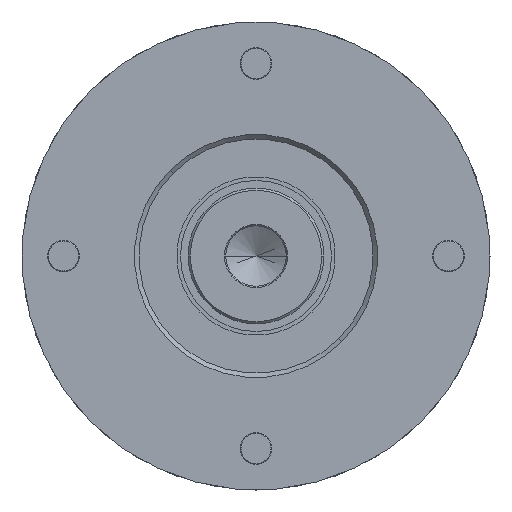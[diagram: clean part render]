
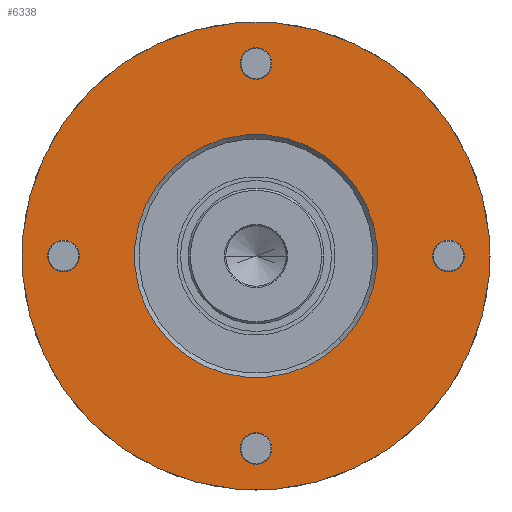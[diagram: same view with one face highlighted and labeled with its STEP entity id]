
A CAD part, left-side view. The second image highlights one B-rep face of the part: STEP entity #6338.
In plain terms, the highlighted planar face has unit normal (-1, 0, 0).
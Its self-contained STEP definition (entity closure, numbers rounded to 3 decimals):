
#5647=CARTESIAN_POINT('',(0.,0.,0.));
#5648=DIRECTION('',(-1.,0.,0.));
#5649=DIRECTION('',(0.,1.,0.));
#5650=AXIS2_PLACEMENT_3D('',#5647,#5648,#5649);
#5655=CARTESIAN_POINT('',(0.,0.,0.));
#5656=DIRECTION('',(1.,0.,0.));
#5657=DIRECTION('',(0.,1.,0.));
#5658=AXIS2_PLACEMENT_3D('',#5655,#5656,#5657);
#5663=CARTESIAN_POINT('',(0.,0.,0.));
#5664=DIRECTION('',(-1.,0.,0.));
#5665=DIRECTION('',(0.,-1.,0.));
#5666=AXIS2_PLACEMENT_3D('',#5663,#5664,#5665);
#5671=CARTESIAN_POINT('',(0.,0.,0.));
#5672=DIRECTION('',(-1.,0.,0.));
#5673=DIRECTION('',(0.,1.,0.));
#5674=AXIS2_PLACEMENT_3D('',#5671,#5672,#5673);
#5679=CARTESIAN_POINT('',(0.,18.031,-18.031));
#5680=DIRECTION('',(1.,0.,0.));
#5681=DIRECTION('',(0.,-1.,0.));
#5682=AXIS2_PLACEMENT_3D('',#5679,#5680,#5681);
#5687=CARTESIAN_POINT('',(0.,18.031,-18.031));
#5688=DIRECTION('',(1.,0.,0.));
#5689=DIRECTION('',(0.,1.,0.));
#5690=AXIS2_PLACEMENT_3D('',#5687,#5688,#5689);
#5695=CARTESIAN_POINT('',(0.,18.031,18.031));
#5696=DIRECTION('',(1.,0.,0.));
#5697=DIRECTION('',(0.,-1.,0.));
#5698=AXIS2_PLACEMENT_3D('',#5695,#5696,#5697);
#5703=CARTESIAN_POINT('',(0.,18.031,18.031));
#5704=DIRECTION('',(1.,0.,0.));
#5705=DIRECTION('',(0.,1.,0.));
#5706=AXIS2_PLACEMENT_3D('',#5703,#5704,#5705);
#5711=CARTESIAN_POINT('',(0.,-18.031,18.031));
#5712=DIRECTION('',(1.,0.,0.));
#5713=DIRECTION('',(0.,-1.,0.));
#5714=AXIS2_PLACEMENT_3D('',#5711,#5712,#5713);
#5719=CARTESIAN_POINT('',(0.,-18.031,18.031));
#5720=DIRECTION('',(1.,0.,0.));
#5721=DIRECTION('',(0.,1.,0.));
#5722=AXIS2_PLACEMENT_3D('',#5719,#5720,#5721);
#5727=CARTESIAN_POINT('',(0.,-18.031,-18.031));
#5728=DIRECTION('',(1.,0.,0.));
#5729=DIRECTION('',(0.,-1.,0.));
#5730=AXIS2_PLACEMENT_3D('',#5727,#5728,#5729);
#5735=CARTESIAN_POINT('',(0.,-18.031,-18.031));
#5736=DIRECTION('',(1.,0.,0.));
#5737=DIRECTION('',(0.,1.,0.));
#5738=AXIS2_PLACEMENT_3D('',#5735,#5736,#5737);
#5943=CARTESIAN_POINT('',(0.,15.931,-18.031));
#5944=CARTESIAN_POINT('',(0.,20.131,-18.031));
#5945=VERTEX_POINT('',#5943);
#5946=VERTEX_POINT('',#5944);
#5947=CARTESIAN_POINT('',(0.,15.931,18.031));
#5948=CARTESIAN_POINT('',(0.,20.131,18.031));
#5949=VERTEX_POINT('',#5947);
#5950=VERTEX_POINT('',#5948);
#5951=CARTESIAN_POINT('',(0.,-20.131,18.031));
#5952=CARTESIAN_POINT('',(0.,-15.931,18.031));
#5953=VERTEX_POINT('',#5951);
#5954=VERTEX_POINT('',#5952);
#5955=CARTESIAN_POINT('',(0.,-20.131,-18.031));
#5956=CARTESIAN_POINT('',(0.,-15.931,-18.031));
#5957=VERTEX_POINT('',#5955);
#5958=VERTEX_POINT('',#5956);
#5959=CARTESIAN_POINT('',(0.,31.,0.));
#5960=CARTESIAN_POINT('',(0.,-31.,0.));
#5961=VERTEX_POINT('',#5959);
#5962=VERTEX_POINT('',#5960);
#5971=CARTESIAN_POINT('',(0.,-16.1,0.));
#5972=CARTESIAN_POINT('',(0.,16.1,0.));
#5973=VERTEX_POINT('',#5971);
#5974=VERTEX_POINT('',#5972);
#6301=CARTESIAN_POINT('',(0.,0.,0.));
#6302=DIRECTION('',(1.,0.,0.));
#6303=DIRECTION('',(0.,-1.,0.));
#6304=AXIS2_PLACEMENT_3D('',#6301,#6302,#6303);
#6305=PLANE('',#6304);
#6306=ORIENTED_EDGE('',*,*,#6268,.F.);
#6307=ORIENTED_EDGE('',*,*,#6283,.T.);
#6308=EDGE_LOOP('',(#6306,#6307));
#6309=FACE_OUTER_BOUND('',#6308,.F.);
#6310=ORIENTED_EDGE('',*,*,#6039,.T.);
#6311=ORIENTED_EDGE('',*,*,#6054,.T.);
#6312=EDGE_LOOP('',(#6310,#6311));
#6313=FACE_BOUND('',#6312,.F.);
#6315=ORIENTED_EDGE('',*,*,#6314,.F.);
#6317=ORIENTED_EDGE('',*,*,#6316,.F.);
#6318=EDGE_LOOP('',(#6315,#6317));
#6319=FACE_BOUND('',#6318,.F.);
#6321=ORIENTED_EDGE('',*,*,#6320,.F.);
#6323=ORIENTED_EDGE('',*,*,#6322,.F.);
#6324=EDGE_LOOP('',(#6321,#6323));
#6325=FACE_BOUND('',#6324,.F.);
#6327=ORIENTED_EDGE('',*,*,#6326,.F.);
#6329=ORIENTED_EDGE('',*,*,#6328,.F.);
#6330=EDGE_LOOP('',(#6327,#6329));
#6331=FACE_BOUND('',#6330,.F.);
#6333=ORIENTED_EDGE('',*,*,#6332,.F.);
#6335=ORIENTED_EDGE('',*,*,#6334,.F.);
#6336=EDGE_LOOP('',(#6333,#6335));
#6337=FACE_BOUND('',#6336,.F.);
#5651=CIRCLE('',#5650,31.);
#5659=CIRCLE('',#5658,31.);
#5667=CIRCLE('',#5666,16.1);
#5675=CIRCLE('',#5674,16.1);
#5683=CIRCLE('',#5682,2.1);
#5691=CIRCLE('',#5690,2.1);
#5699=CIRCLE('',#5698,2.1);
#5707=CIRCLE('',#5706,2.1);
#5715=CIRCLE('',#5714,2.1);
#5723=CIRCLE('',#5722,2.1);
#5731=CIRCLE('',#5730,2.1);
#5739=CIRCLE('',#5738,2.1);
#6039=EDGE_CURVE('',#5973,#5974,#5667,.T.);
#6054=EDGE_CURVE('',#5974,#5973,#5675,.T.);
#6268=EDGE_CURVE('',#5961,#5962,#5651,.T.);
#6283=EDGE_CURVE('',#5961,#5962,#5659,.T.);
#6314=EDGE_CURVE('',#5945,#5946,#5683,.T.);
#6316=EDGE_CURVE('',#5946,#5945,#5691,.T.);
#6320=EDGE_CURVE('',#5949,#5950,#5699,.T.);
#6322=EDGE_CURVE('',#5950,#5949,#5707,.T.);
#6326=EDGE_CURVE('',#5953,#5954,#5715,.T.);
#6328=EDGE_CURVE('',#5954,#5953,#5723,.T.);
#6332=EDGE_CURVE('',#5957,#5958,#5731,.T.);
#6334=EDGE_CURVE('',#5958,#5957,#5739,.T.);
#6338=ADVANCED_FACE('',(#6309,#6313,#6319,#6325,#6331,#6337),#6305,.F.);
